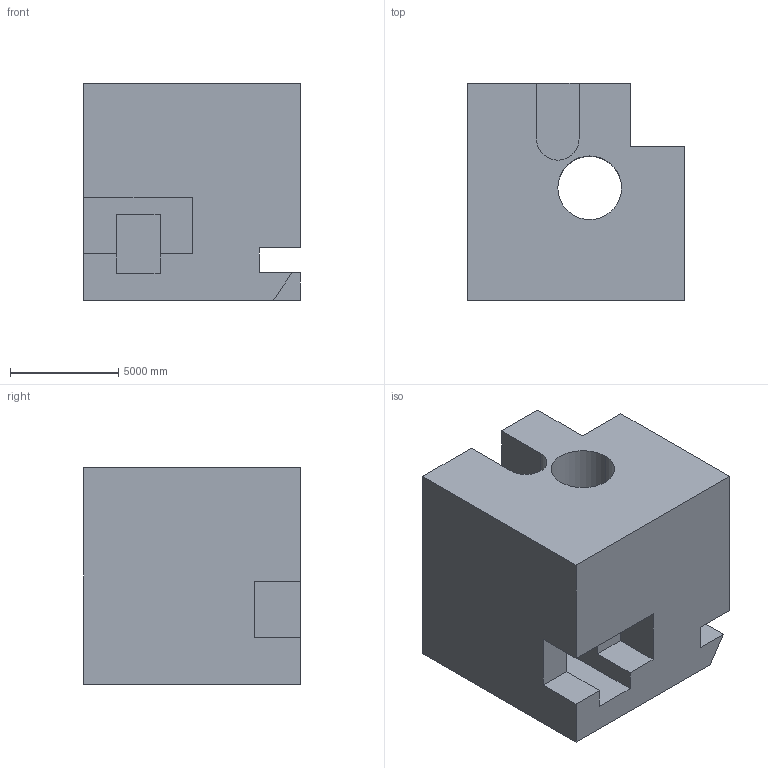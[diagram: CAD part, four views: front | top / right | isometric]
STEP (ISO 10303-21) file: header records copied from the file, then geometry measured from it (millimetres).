
FILE_DESCRIPTION (( 'STEP AP203' ), '1' );
FILE_NAME ('1644.STEP', '2022-08-25T15:19:27', ( 'user' ), ( '' ), 'SwSTEP 2.0', 'SolidWorks 2021', '' );
FILE_SCHEMA (( 'CONFIG_CONTROL_DESIGN' ));
Length unit declared in the file: centimetre
Products named in the file (1): 1644
Bounding box: 10000 x 10000 x 10000 mm (x, y, z)
Volume: 769944028059.2 mm3; surface area: 760862025.3 mm2
Topology: 1 solids, 1 shells, 30 faces, 84 edges, 56 vertices
Faces by surface type: plane 27, cylinder 3
Entity records: 1035 total; most frequent: CARTESIAN_POINT 171, ORIENTED_EDGE 168, DIRECTION 152, EDGE_CURVE 84, VECTOR 78, LINE 78, VERTEX_POINT 56, AXIS2_PLACEMENT_3D 37
